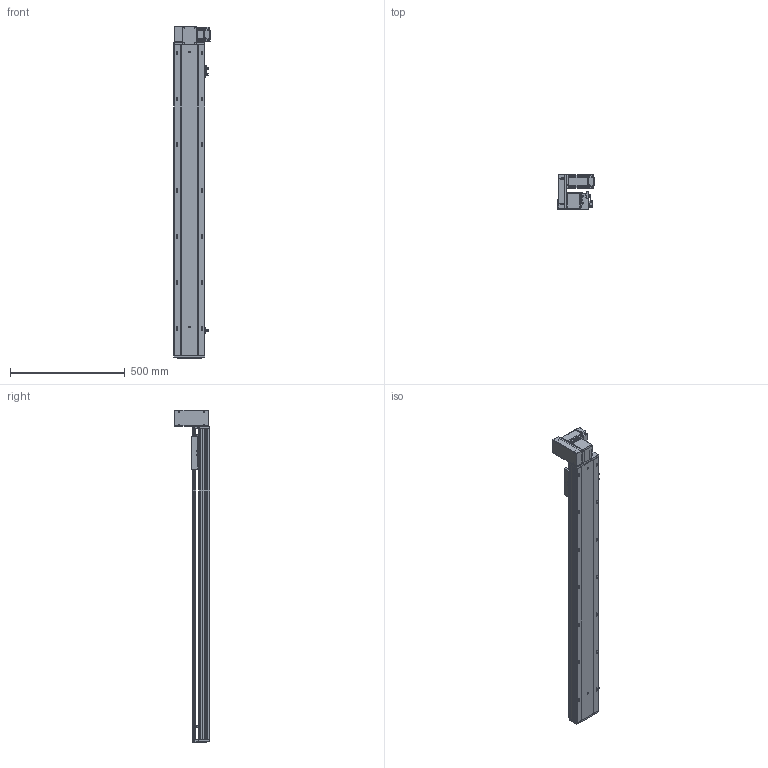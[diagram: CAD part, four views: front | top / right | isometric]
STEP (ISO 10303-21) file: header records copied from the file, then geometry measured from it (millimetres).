
FILE_DESCRIPTION (( 'STEP AP203' ), '1' );
FILE_NAME ('RY140-T-300-UL.SLDASM_1100.step', '2021-03-01T07:43:58', ( '盈信电脑' ), ( '东莞市道滘镇水果街19号' ), 'SwSTEP 2.0', 'SolidWorks 2012', '' );
FILE_SCHEMA (( 'CONFIG_CONTROL_DESIGN' ));
Products named in the file (18): RY140-T-300-UL.SLDASM_1100; RY140-T翋肮謫裔啣; RY120-T主同步轮轴承压盖; RY120-T蹟翐M4; 滅袉蝶18-10; RY140-T萇儂欶; RY140-T萇儂假蚾啣; 侂狟400W侜督萇儂; 15; RY120-T肮祭湍揤踡輸1; RY120外置感应片(140共用）; RY140-T翋肮祭謫盓傅釱; RY120-T肮祭湍揤踡輸2; 覜茼ん672; RY140-T-300-DL倰第奻裔啣_1100; RY140綴裔啣; RY140-T-300-DL倰第菁釱_1100; RY140肮祭謫臏賑輸
Assembly tree (23 placements, depth 3):
  RY140-T-300-UL.SLDASM_1100
    RY140-T-300-DL倰第菁釱_1100
    RY140肮祭謫臏賑輸
    RY140-T-300-DL倰第奻裔啣_1100
    RY140綴裔啣
    覜茼ん672  x3
    RY120外置感应片(140共用）
    RY120-T肮祭湍揤踡輸2
    RY120-T肮祭湍揤踡輸1
    RY140-T翋肮祭謫盓傅釱
    RY140-T萇儂假蚾啣
    侂狟400W侜督萇儂
      15
    RY120-T主同步轮轴承压盖
    RY120-T蹟翐M4  x4
    RY140-T萇儂欶
    滅袉蝶18-10  x2
    RY140-T翋肮謫裔啣
Bounding box: 157 x 152.5 x 1446 mm (x, y, z)
Volume: 4237440 mm3; surface area: 1621764.8 mm2
Topology: 22 solids, 22 shells, 2679 faces, 7317 edges, 4688 vertices
Faces by surface type: plane 1381, cylinder 972, cone 226, bspline 100
Entity records: 84479 total; most frequent: CARTESIAN_POINT 20545, ORIENTED_EDGE 13106, DIRECTION 12497, EDGE_CURVE 6553, VERTEX_POINT 4287, LINE 4209, VECTOR 4209, AXIS2_PLACEMENT_3D 4144
